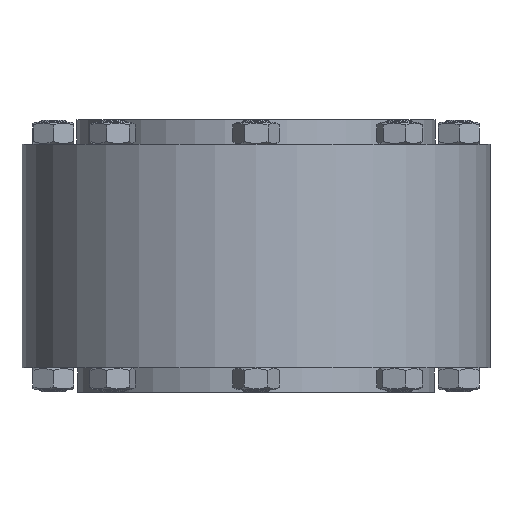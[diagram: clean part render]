
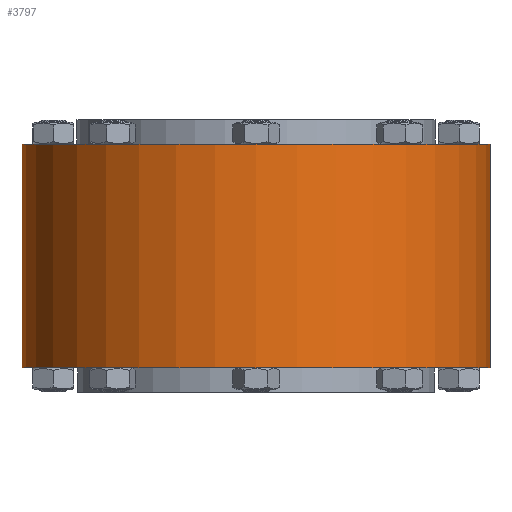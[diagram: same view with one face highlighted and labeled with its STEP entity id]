
A CAD part, front view. The second image highlights one B-rep face of the part: STEP entity #3797.
In plain terms, the highlighted cylindrical face has radius 172.5 mm (diameter 345 mm), a full revolution.
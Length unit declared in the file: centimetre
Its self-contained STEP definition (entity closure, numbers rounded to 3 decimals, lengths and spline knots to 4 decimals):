
#678=FACE_BOUND('',#1174,.T.);
#864=FACE_OUTER_BOUND('',#1173,.T.);
#1173=EDGE_LOOP('',(#2621));
#1174=EDGE_LOOP('',(#2622));
#1600=CIRCLE('',#4119,17.25);
#1617=CIRCLE('',#4137,17.25);
#1768=VERTEX_POINT('',#5569);
#1785=VERTEX_POINT('',#5604);
#2128=EDGE_CURVE('',#1768,#1768,#1600,.T.);
#2145=EDGE_CURVE('',#1785,#1785,#1617,.T.);
#2621=ORIENTED_EDGE('',*,*,#2145,.F.);
#2622=ORIENTED_EDGE('',*,*,#2128,.F.);
#3474=CYLINDRICAL_SURFACE('',#4136,17.25);
#3797=ADVANCED_FACE('',(#864,#678),#3474,.T.);
#4119=AXIS2_PLACEMENT_3D('',#5570,#4623,#4624);
#4136=AXIS2_PLACEMENT_3D('',#5603,#4657,#4658);
#4137=AXIS2_PLACEMENT_3D('',#5605,#4659,#4660);
#4623=DIRECTION('center_axis',(0.,0.,
1.));
#4624=DIRECTION('ref_axis',(0.,-1.,0.));
#4657=DIRECTION('center_axis',(0.,0.,
1.));
#4658=DIRECTION('ref_axis',(1.,0.,0.));
#4659=DIRECTION('center_axis',(0.,0.,
-1.));
#4660=DIRECTION('ref_axis',(-0.707,-0.707,0.));
#5569=CARTESIAN_POINT('',(-17.25,0.,8.25));
#5570=CARTESIAN_POINT('Origin',(0.,0.,
8.25));
#5603=CARTESIAN_POINT('Origin',(0.,0.,
7.725));
#5604=CARTESIAN_POINT('',(-17.25,0.,-8.25));
#5605=CARTESIAN_POINT('Origin',(0.,0.,
-8.25));
